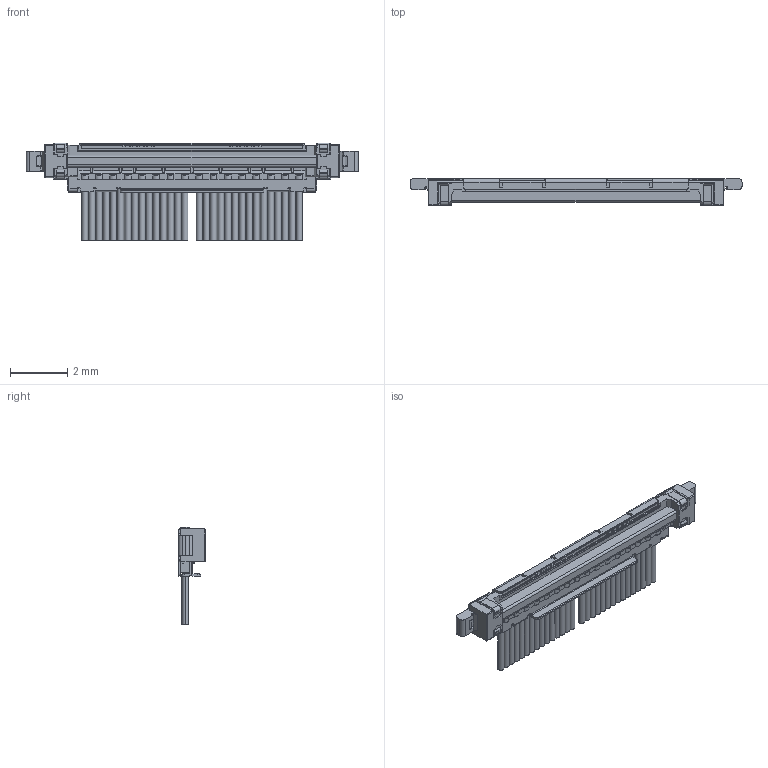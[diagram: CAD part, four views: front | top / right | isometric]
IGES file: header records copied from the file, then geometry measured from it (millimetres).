
Start section: SolidWorks IGES file using analytic representation for surfaces
Global section: file name: C:\3dwork\shibata\CABLINE-UXII\20140213 CABLINE-UXII 26P 見積図\Part1^20531- Plug cable assy.IGS,15; native system: HSolidWorks 2012; preprocessor: SolidWorks 2012; author: 3dcad; date: 140226.114854; units: millimetre
Bounding box: 11.6 x 0.94 x 3.41 mm (x, y, z)
Surface area: 102.4 mm2 (no closed solid volume)
Topology: 0 solids, 0 shells, 710 faces, 5072 edges, 5072 vertices
Faces by surface type: bspline 518, revolution 192
